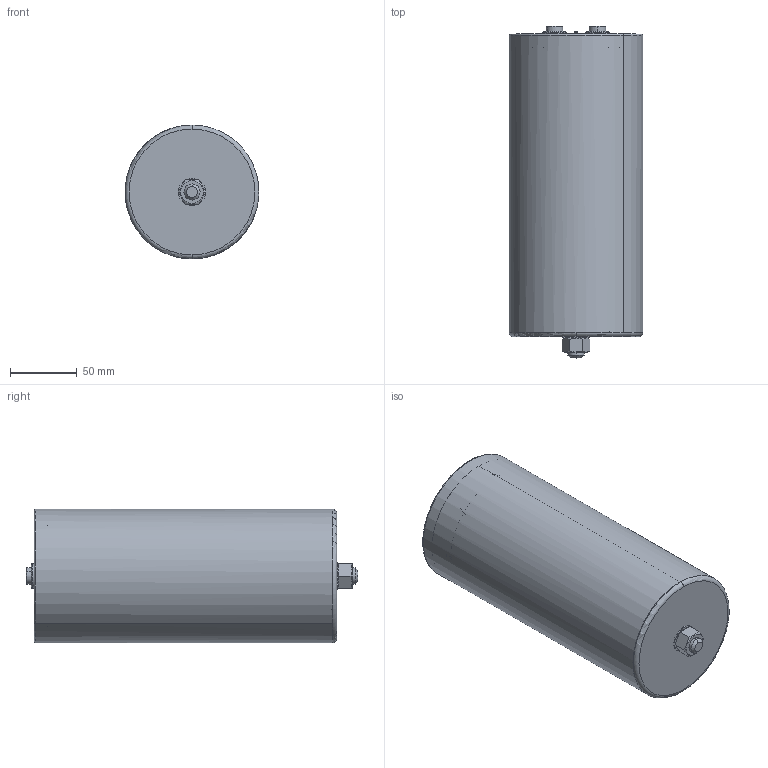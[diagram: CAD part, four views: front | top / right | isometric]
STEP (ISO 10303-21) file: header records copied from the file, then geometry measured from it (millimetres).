
FILE_DESCRIPTION (( 'STEP AP214' ), '1' );
FILE_NAME ('B25694M Series D100 Hc226 Ht232.STEP', '2025-07-24T06:45:07', ( '' ), ( '' ), 'SwSTEP 2.0', 'SolidWorks 2019', '' );
FILE_SCHEMA (( 'AUTOMOTIVE_DESIGN' ));
Length unit declared in the file: millimetre
Products named in the file (1): B25694M Series D100 Hc226 Ht232
Bounding box: 99.91 x 248 x 100 mm (x, y, z)
Volume: 123387.6 mm3; surface area: 189354.5 mm2
Topology: 1 solids, 9 shells, 395 faces, 1004 edges, 639 vertices
Faces by surface type: plane 183, cylinder 144, cone 50, torus 18
Entity records: 12333 total; most frequent: CARTESIAN_POINT 2737, DIRECTION 2045, ORIENTED_EDGE 2000, EDGE_CURVE 1000, AXIS2_PLACEMENT_3D 791, VERTEX_POINT 639, LINE 463, VECTOR 463
